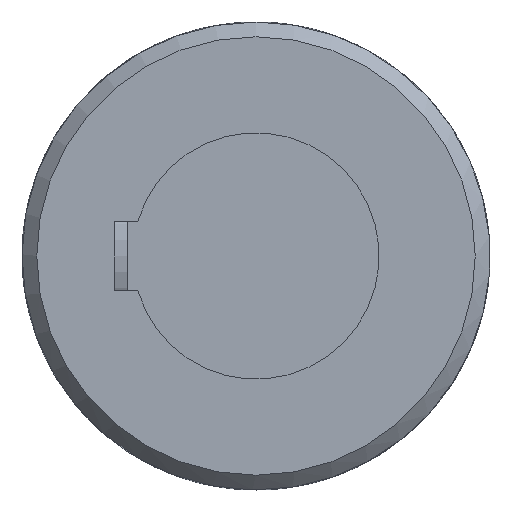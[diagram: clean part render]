
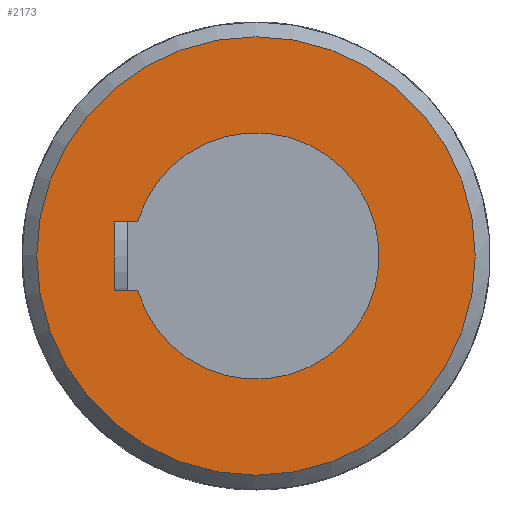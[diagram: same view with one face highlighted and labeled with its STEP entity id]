
A CAD part, front view. The second image highlights one B-rep face of the part: STEP entity #2173.
In plain terms, the highlighted planar face has unit normal (0, -1, 0).
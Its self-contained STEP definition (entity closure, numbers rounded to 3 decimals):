
#127=LINE('',#4117,#200);
#131=LINE('',#4139,#204);
#133=LINE('',#4147,#206);
#200=VECTOR('',#2809,4.8);
#204=VECTOR('',#2821,14.);
#206=VECTOR('',#2825,4.8);
#395=PLANE('',#2386);
#456=FACE_BOUND('',#734,.T.);
#560=FACE_OUTER_BOUND('',#733,.T.);
#733=EDGE_LOOP('',(#1816));
#734=EDGE_LOOP('',(#1817,#1818,#1819,#1820));
#874=CIRCLE('',#2373,25.);
#878=CIRCLE('',#2382,44.5);
#1044=VERTEX_POINT('',#4114);
#1045=VERTEX_POINT('',#4116);
#1048=VERTEX_POINT('',#4126);
#1050=VERTEX_POINT('',#4137);
#1055=VERTEX_POINT('',#4196);
#1310=EDGE_CURVE('',#1045,#1044,#127,.T.);
#1314=EDGE_CURVE('',#1048,#1045,#874,.T.);
#1318=EDGE_CURVE('',#1044,#1050,#131,.T.);
#1321=EDGE_CURVE('',#1050,#1048,#133,.T.);
#1327=EDGE_CURVE('',#1055,#1055,#878,.T.);
#1816=ORIENTED_EDGE('',*,*,#1327,.F.);
#1817=ORIENTED_EDGE('',*,*,#1318,.T.);
#1818=ORIENTED_EDGE('',*,*,#1321,.T.);
#1819=ORIENTED_EDGE('',*,*,#1314,.T.);
#1820=ORIENTED_EDGE('',*,*,#1310,.T.);
#2173=ADVANCED_FACE('',(#560,#456),#395,.F.);
#2373=AXIS2_PLACEMENT_3D('',#4127,#2815,#2816);
#2382=AXIS2_PLACEMENT_3D('',#4197,#2838,#2839);
#2386=AXIS2_PLACEMENT_3D('',#4441,#2850,#2851);
#2809=DIRECTION('',(0.,0.,-1.));
#2815=DIRECTION('center_axis',(0.,1.,0.));
#2816=DIRECTION('ref_axis',(0.28,0.,-0.96));
#2821=DIRECTION('',(-1.,0.,0.));
#2825=DIRECTION('',(0.,0.,1.));
#2838=DIRECTION('center_axis',(0.,1.,0.));
#2839=DIRECTION('ref_axis',(1.,0.,0.));
#2850=DIRECTION('center_axis',(0.,1.,0.));
#2851=DIRECTION('ref_axis',(0.,0.,1.));
#4114=CARTESIAN_POINT('',(7.,-118.,-28.8));
#4116=CARTESIAN_POINT('',(7.,-118.,-24.));
#4117=CARTESIAN_POINT('',(7.,-118.,-12.));
#4126=CARTESIAN_POINT('',(-7.,-118.,-24.));
#4127=CARTESIAN_POINT('Origin',(0.,-118.,0.));
#4137=CARTESIAN_POINT('',(-7.,-118.,-28.8));
#4139=CARTESIAN_POINT('',(3.5,-118.,-28.8));
#4147=CARTESIAN_POINT('',(-7.,-118.,-14.4));
#4196=CARTESIAN_POINT('',(-44.5,-118.,0.));
#4197=CARTESIAN_POINT('Origin',(0.,-118.,0.));
#4441=CARTESIAN_POINT('Origin',(0.,-118.,0.));
